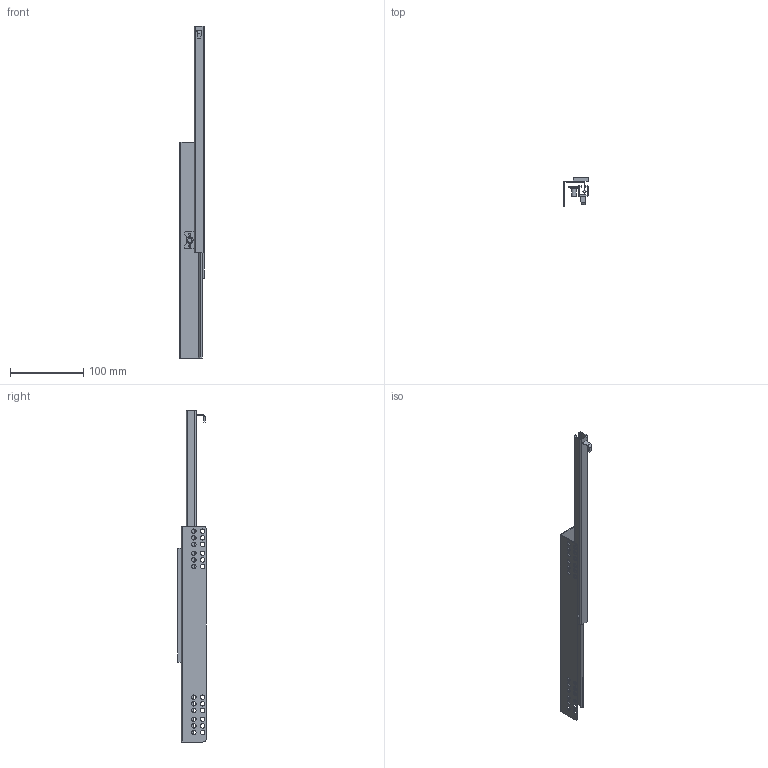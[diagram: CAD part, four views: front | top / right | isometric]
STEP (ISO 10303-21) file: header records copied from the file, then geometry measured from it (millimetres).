
FILE_DESCRIPTION(/* description */ (''),/* implementation_level */ '2;1');
FILE_NAME(/* name */ 'C:\Users\dmitruk\Documents\WORK\НАПРАВЛЯЮЩИЕ\Скрытого монтажаНаправляющая cкрытого насадного монтажа 3-4 Q-Type\Направляющая cкрытого насадного монтажа 3-4 Q-Type_P\Направляющая cкрытого насадного монтажа 3-4 Q-Type-450 L.stp',/* time_stamp */ '2020-07-27T14:54:28+03:00',/* author */ ('dmitruk'),/* organization */ (''),/* preprocessor_version */ 'ST-DEVELOPER v16.5',/* originating_system */ 'Autodesk Inventor 2017',/* authorisation */ '');
FILE_SCHEMA (('AUTOMOTIVE_DESIGN { 1 0 10303 214 3 1 1 }'));
Length unit declared in the file: millimetre
Products named in the file (1): Направляющая c\X2\043A0440
044B0442043E0433043E\X0\ насадного 
монтажа 3-4 Q-Type-450 L
Bounding box: 34 x 39 x 452 mm (x, y, z)
Volume: 59839.1 mm3; surface area: 80193.5 mm2
Topology: 2 solids, 2 shells, 108 faces, 288 edges, 188 vertices
Faces by surface type: plane 60, cylinder 46, bspline 2
Full cylindrical faces by diameter (mm): 3 x2, 6 x25, 9 x1
Entity records: 3401 total; most frequent: CARTESIAN_POINT 617, DIRECTION 564, ORIENTED_EDGE 518, EDGE_CURVE 259, AXIS2_PLACEMENT_3D 202, EDGE_LOOP 194, VERTEX_POINT 187, LINE 160
